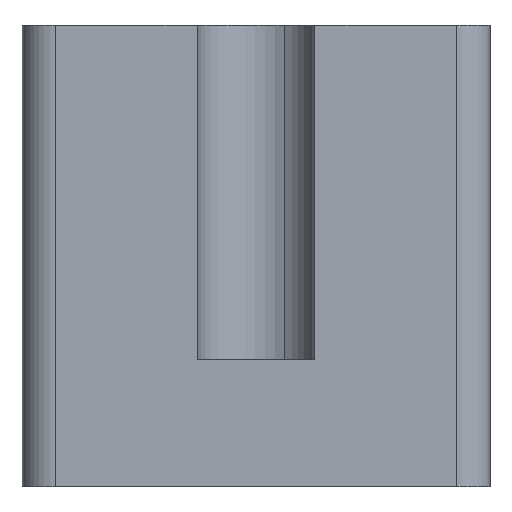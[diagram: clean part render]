
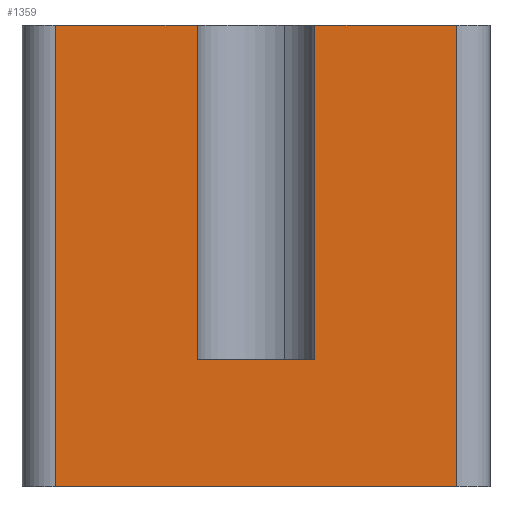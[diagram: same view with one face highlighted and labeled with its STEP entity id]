
A CAD part, left-side view. The second image highlights one B-rep face of the part: STEP entity #1359.
In plain terms, the highlighted planar face has unit normal (-1, 0, 0).
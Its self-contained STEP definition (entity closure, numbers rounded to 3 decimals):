
#325=CARTESIAN_POINT('Line Origine',(0.,-21.9,22.)) ;
#329=CARTESIAN_POINT('Vertex',(0.,-21.9,34.5)) ;
#331=CARTESIAN_POINT('Vertex',(0.,-21.9,9.5)) ;
#369=CARTESIAN_POINT('Vertex',(0.,-13.1,9.5)) ;
#374=CARTESIAN_POINT('Line Origine',(0.,-17.5,9.5)) ;
#408=CARTESIAN_POINT('Line Origine',(0.,-13.1,22.)) ;
#412=CARTESIAN_POINT('Vertex',(0.,-13.1,34.5)) ;
#1258=CARTESIAN_POINT('Vertex',(0.,-2.5,34.5)) ;
#1265=CARTESIAN_POINT('Vertex',(0.,-2.5,0.)) ;
#1268=CARTESIAN_POINT('Line Origine',(0.,-2.5,17.25)) ;
#1320=CARTESIAN_POINT('Axis2P3D Location',(0.,0.,0.)) ;
#1325=CARTESIAN_POINT('Line Origine',(0.,-27.2,34.5)) ;
#1329=CARTESIAN_POINT('Vertex',(0.,-32.5,34.5)) ;
#1332=CARTESIAN_POINT('Line Origine',(0.,-7.8,34.5)) ;
#1337=CARTESIAN_POINT('Line Origine',(0.,-17.5,0.)) ;
#1341=CARTESIAN_POINT('Vertex',(0.,-32.5,0.)) ;
#1344=CARTESIAN_POINT('Line Origine',(0.,-32.5,17.25)) ;
#326=DIRECTION('Vector Direction',(0.,0.,-1.)) ;
#375=DIRECTION('Vector Direction',(0.,1.,0.)) ;
#409=DIRECTION('Vector Direction',(0.,0.,-1.)) ;
#1269=DIRECTION('Vector Direction',(0.,0.,1.)) ;
#1321=DIRECTION('Axis2P3D Direction',(-1.,0.,0.)) ;
#1322=DIRECTION('Axis2P3D XDirection',(0.,-1.,0.)) ;
#1326=DIRECTION('Vector Direction',(0.,-1.,0.)) ;
#1333=DIRECTION('Vector Direction',(0.,-1.,0.)) ;
#1338=DIRECTION('Vector Direction',(0.,-1.,0.)) ;
#1345=DIRECTION('Vector Direction',(0.,0.,1.)) ;
#1323=AXIS2_PLACEMENT_3D('Plane Axis2P3D',#1320,#1321,#1322) ;
#1350=ORIENTED_EDGE('',*,*,#1331,.F.) ;
#1351=ORIENTED_EDGE('',*,*,#333,.T.) ;
#1352=ORIENTED_EDGE('',*,*,#378,.T.) ;
#1353=ORIENTED_EDGE('',*,*,#414,.F.) ;
#1354=ORIENTED_EDGE('',*,*,#1336,.F.) ;
#1355=ORIENTED_EDGE('',*,*,#1272,.F.) ;
#1356=ORIENTED_EDGE('',*,*,#1343,.T.) ;
#1357=ORIENTED_EDGE('',*,*,#1348,.T.) ;
#327=VECTOR('Line Direction',#326,1.) ;
#376=VECTOR('Line Direction',#375,1.) ;
#410=VECTOR('Line Direction',#409,1.) ;
#1270=VECTOR('Line Direction',#1269,1.) ;
#1327=VECTOR('Line Direction',#1326,1.) ;
#1334=VECTOR('Line Direction',#1333,1.) ;
#1339=VECTOR('Line Direction',#1338,1.) ;
#1346=VECTOR('Line Direction',#1345,1.) ;
#1359=ADVANCED_FACE('\X2\96F64EF651E04F554F53\X0\',(#1358),#1324,.T.) ;
#333=EDGE_CURVE('',#330,#332,#328,.T.) ;
#378=EDGE_CURVE('',#332,#370,#377,.T.) ;
#414=EDGE_CURVE('',#413,#370,#411,.T.) ;
#1272=EDGE_CURVE('',#1266,#1259,#1271,.T.) ;
#1331=EDGE_CURVE('',#330,#1330,#1328,.T.) ;
#1336=EDGE_CURVE('',#1259,#413,#1335,.T.) ;
#1343=EDGE_CURVE('',#1266,#1342,#1340,.T.) ;
#1348=EDGE_CURVE('',#1342,#1330,#1347,.T.) ;
#1349=EDGE_LOOP('',(#1350,#1351,#1352,#1353,#1354,#1355,#1356,#1357)) ;
#1358=FACE_OUTER_BOUND('',#1349,.T.) ;
#328=LINE('Line',#325,#327) ;
#377=LINE('Line',#374,#376) ;
#411=LINE('Line',#408,#410) ;
#1271=LINE('Line',#1268,#1270) ;
#1328=LINE('Line',#1325,#1327) ;
#1335=LINE('Line',#1332,#1334) ;
#1340=LINE('Line',#1337,#1339) ;
#1347=LINE('Line',#1344,#1346) ;
#1324=PLANE('Plane',#1323) ;
#330=VERTEX_POINT('',#329) ;
#332=VERTEX_POINT('',#331) ;
#370=VERTEX_POINT('',#369) ;
#413=VERTEX_POINT('',#412) ;
#1259=VERTEX_POINT('',#1258) ;
#1266=VERTEX_POINT('',#1265) ;
#1330=VERTEX_POINT('',#1329) ;
#1342=VERTEX_POINT('',#1341) ;
